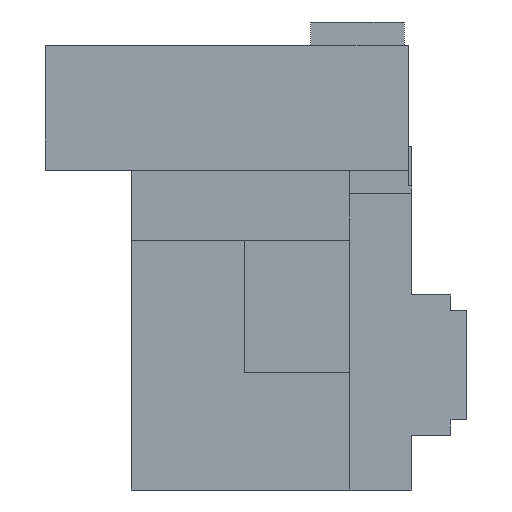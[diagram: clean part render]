
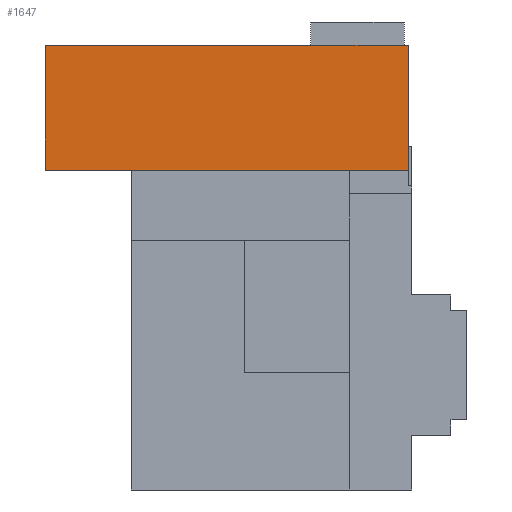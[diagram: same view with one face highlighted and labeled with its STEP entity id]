
A CAD part, front view. The second image highlights one B-rep face of the part: STEP entity #1647.
In plain terms, the highlighted planar face has unit normal (0, -1, 0).
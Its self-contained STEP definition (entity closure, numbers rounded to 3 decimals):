
#1358 = PLANE('',#1359);
#1359 = AXIS2_PLACEMENT_3D('',#1360,#1361,#1362);
#1360 = CARTESIAN_POINT('',(68.568,93.343,12.2));
#1361 = DIRECTION('',(-0.,-0.,-1.));
#1362 = DIRECTION('',(-1.,0.,0.));
#1386 = PLANE('',#1387);
#1387 = AXIS2_PLACEMENT_3D('',#1388,#1389,#1390);
#1388 = CARTESIAN_POINT('',(66.4,90.7,12.2));
#1389 = DIRECTION('',(1.,0.,0.));
#1390 = DIRECTION('',(0.,0.,1.));
#1414 = PLANE('',#1415);
#1415 = AXIS2_PLACEMENT_3D('',#1416,#1417,#1418);
#1416 = CARTESIAN_POINT('',(68.725,93.5,13.8));
#1417 = DIRECTION('',(0.,0.,1.));
#1418 = DIRECTION('',(1.,0.,0.));
#1442 = PLANE('',#1443);
#1443 = AXIS2_PLACEMENT_3D('',#1444,#1445,#1446);
#1444 = CARTESIAN_POINT('',(71.05,93.458,13.042));
#1445 = DIRECTION('',(1.,0.,0.));
#1446 = DIRECTION('',(0.,0.,1.));
#1575 = EDGE_CURVE('',#1576,#1578,#1580,.T.);
#1576 = VERTEX_POINT('',#1577);
#1577 = CARTESIAN_POINT('',(66.4,90.7,12.2));
#1578 = VERTEX_POINT('',#1579);
#1579 = CARTESIAN_POINT('',(66.4,90.7,13.8));
#1580 = SURFACE_CURVE('',#1581,(#1585,#1592),.PCURVE_S1.);
#1581 = LINE('',#1582,#1583);
#1582 = CARTESIAN_POINT('',(66.4,90.7,12.2));
#1583 = VECTOR('',#1584,1.);
#1584 = DIRECTION('',(0.,0.,1.));
#1585 = PCURVE('',#1386,#1586);
#1586 = DEFINITIONAL_REPRESENTATION('',(#1587),#1591);
#1587 = LINE('',#1588,#1589);
#1588 = CARTESIAN_POINT('',(0.,0.));
#1589 = VECTOR('',#1590,1.);
#1590 = DIRECTION('',(1.,0.));
#1591 = ( GEOMETRIC_REPRESENTATION_CONTEXT(2) 
PARAMETRIC_REPRESENTATION_CONTEXT() REPRESENTATION_CONTEXT('2D SPACE',''
  ) );
#1592 = PCURVE('',#1593,#1598);
#1593 = PLANE('',#1594);
#1594 = AXIS2_PLACEMENT_3D('',#1595,#1596,#1597);
#1595 = CARTESIAN_POINT('',(68.725,90.7,13.));
#1596 = DIRECTION('',(-0.,-1.,-0.));
#1597 = DIRECTION('',(0.,0.,-1.));
#1598 = DEFINITIONAL_REPRESENTATION('',(#1599),#1603);
#1599 = LINE('',#1600,#1601);
#1600 = CARTESIAN_POINT('',(0.8,-2.325));
#1601 = VECTOR('',#1602,1.);
#1602 = DIRECTION('',(-1.,0.));
#1603 = ( GEOMETRIC_REPRESENTATION_CONTEXT(2) 
PARAMETRIC_REPRESENTATION_CONTEXT() REPRESENTATION_CONTEXT('2D SPACE',''
  ) );
#1647 = ADVANCED_FACE('',(#1648),#1593,.T.);
#1648 = FACE_BOUND('',#1649,.T.);
#1649 = EDGE_LOOP('',(#1650,#1675,#1696,#1697));
#1650 = ORIENTED_EDGE('',*,*,#1651,.T.);
#1651 = EDGE_CURVE('',#1652,#1654,#1656,.T.);
#1652 = VERTEX_POINT('',#1653);
#1653 = CARTESIAN_POINT('',(71.05,90.7,12.2));
#1654 = VERTEX_POINT('',#1655);
#1655 = CARTESIAN_POINT('',(71.05,90.7,13.8));
#1656 = SURFACE_CURVE('',#1657,(#1661,#1668),.PCURVE_S1.);
#1657 = LINE('',#1658,#1659);
#1658 = CARTESIAN_POINT('',(71.05,90.7,12.2));
#1659 = VECTOR('',#1660,1.);
#1660 = DIRECTION('',(0.,0.,1.));
#1661 = PCURVE('',#1593,#1662);
#1662 = DEFINITIONAL_REPRESENTATION('',(#1663),#1667);
#1663 = LINE('',#1664,#1665);
#1664 = CARTESIAN_POINT('',(0.8,2.325));
#1665 = VECTOR('',#1666,1.);
#1666 = DIRECTION('',(-1.,0.));
#1667 = ( GEOMETRIC_REPRESENTATION_CONTEXT(2) 
PARAMETRIC_REPRESENTATION_CONTEXT() REPRESENTATION_CONTEXT('2D SPACE',''
  ) );
#1668 = PCURVE('',#1442,#1669);
#1669 = DEFINITIONAL_REPRESENTATION('',(#1670),#1674);
#1670 = LINE('',#1671,#1672);
#1671 = CARTESIAN_POINT('',(-0.842,2.758));
#1672 = VECTOR('',#1673,1.);
#1673 = DIRECTION('',(1.,0.));
#1674 = ( GEOMETRIC_REPRESENTATION_CONTEXT(2) 
PARAMETRIC_REPRESENTATION_CONTEXT() REPRESENTATION_CONTEXT('2D SPACE',''
  ) );
#1675 = ORIENTED_EDGE('',*,*,#1676,.F.);
#1676 = EDGE_CURVE('',#1578,#1654,#1677,.T.);
#1677 = SURFACE_CURVE('',#1678,(#1682,#1689),.PCURVE_S1.);
#1678 = LINE('',#1679,#1680);
#1679 = CARTESIAN_POINT('',(66.4,90.7,13.8));
#1680 = VECTOR('',#1681,1.);
#1681 = DIRECTION('',(1.,0.,0.));
#1682 = PCURVE('',#1593,#1683);
#1683 = DEFINITIONAL_REPRESENTATION('',(#1684),#1688);
#1684 = LINE('',#1685,#1686);
#1685 = CARTESIAN_POINT('',(-0.8,-2.325));
#1686 = VECTOR('',#1687,1.);
#1687 = DIRECTION('',(0.,1.));
#1688 = ( GEOMETRIC_REPRESENTATION_CONTEXT(2) 
PARAMETRIC_REPRESENTATION_CONTEXT() REPRESENTATION_CONTEXT('2D SPACE',''
  ) );
#1689 = PCURVE('',#1414,#1690);
#1690 = DEFINITIONAL_REPRESENTATION('',(#1691),#1695);
#1691 = LINE('',#1692,#1693);
#1692 = CARTESIAN_POINT('',(-2.325,-2.8));
#1693 = VECTOR('',#1694,1.);
#1694 = DIRECTION('',(1.,0.));
#1695 = ( GEOMETRIC_REPRESENTATION_CONTEXT(2) 
PARAMETRIC_REPRESENTATION_CONTEXT() REPRESENTATION_CONTEXT('2D SPACE',''
  ) );
#1696 = ORIENTED_EDGE('',*,*,#1575,.F.);
#1697 = ORIENTED_EDGE('',*,*,#1698,.T.);
#1698 = EDGE_CURVE('',#1576,#1652,#1699,.T.);
#1699 = SURFACE_CURVE('',#1700,(#1704,#1711),.PCURVE_S1.);
#1700 = LINE('',#1701,#1702);
#1701 = CARTESIAN_POINT('',(66.4,90.7,12.2));
#1702 = VECTOR('',#1703,1.);
#1703 = DIRECTION('',(1.,0.,0.));
#1704 = PCURVE('',#1593,#1705);
#1705 = DEFINITIONAL_REPRESENTATION('',(#1706),#1710);
#1706 = LINE('',#1707,#1708);
#1707 = CARTESIAN_POINT('',(0.8,-2.325));
#1708 = VECTOR('',#1709,1.);
#1709 = DIRECTION('',(0.,1.));
#1710 = ( GEOMETRIC_REPRESENTATION_CONTEXT(2) 
PARAMETRIC_REPRESENTATION_CONTEXT() REPRESENTATION_CONTEXT('2D SPACE',''
  ) );
#1711 = PCURVE('',#1358,#1712);
#1712 = DEFINITIONAL_REPRESENTATION('',(#1713),#1717);
#1713 = LINE('',#1714,#1715);
#1714 = CARTESIAN_POINT('',(2.168,-2.643));
#1715 = VECTOR('',#1716,1.);
#1716 = DIRECTION('',(-1.,0.));
#1717 = ( GEOMETRIC_REPRESENTATION_CONTEXT(2) 
PARAMETRIC_REPRESENTATION_CONTEXT() REPRESENTATION_CONTEXT('2D SPACE',''
  ) );
